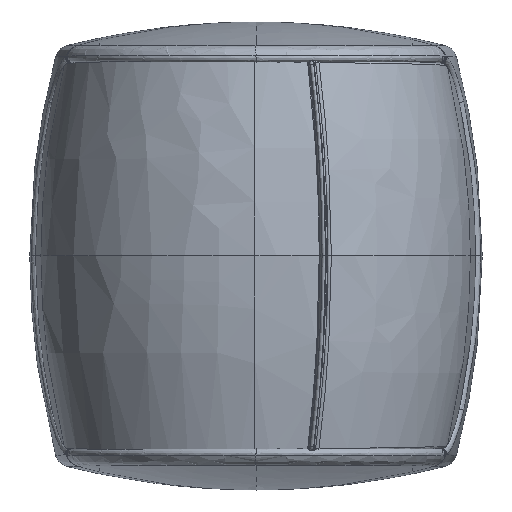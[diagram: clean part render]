
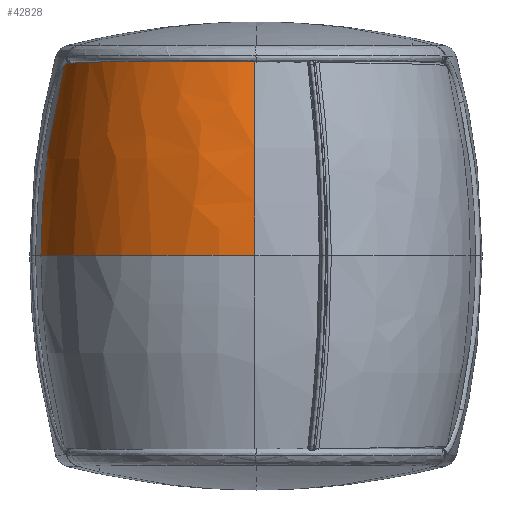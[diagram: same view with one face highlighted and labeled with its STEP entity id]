
A CAD part, top view. The second image highlights one B-rep face of the part: STEP entity #42828.
In plain terms, the highlighted free-form (B-spline) face has degree [2, 3] with [3, 16] control points.
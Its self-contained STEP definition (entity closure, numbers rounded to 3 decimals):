
#40558=CARTESIAN_POINT('Vertex',(-36.289,37.,21.634)) ;
#40562=CARTESIAN_POINT('Control Point',(-36.289,37.,21.634)) ;
#40563=CARTESIAN_POINT('Control Point',(-35.408,37.071,25.72)) ;
#40564=CARTESIAN_POINT('Control Point',(-32.244,37.208,33.572)) ;
#40565=CARTESIAN_POINT('Control Point',(-23.848,37.375,43.116)) ;
#40566=CARTESIAN_POINT('Control Point',(-12.746,37.483,49.307)) ;
#40567=CARTESIAN_POINT('Control Point',(-4.401,37.508,50.746)) ;
#40568=CARTESIAN_POINT('Control Point',(-0.222,37.508,50.741)) ;
#40569=CARTESIAN_POINT('Vertex',(-0.222,37.508,50.741)) ;
#40734=CARTESIAN_POINT('Vertex',(-36.857,36.62,18.903)) ;
#40738=CARTESIAN_POINT('Control Point',(-36.857,36.62,18.904)) ;
#40739=CARTESIAN_POINT('Control Point',(-36.689,36.851,19.717)) ;
#40740=CARTESIAN_POINT('Control Point',(-36.5,37.,20.636)) ;
#40741=CARTESIAN_POINT('Control Point',(-36.289,37.,21.634)) ;
#42741=CARTESIAN_POINT('Control Point',(-41.354,0.,19.515)) ;
#42742=CARTESIAN_POINT('Control Point',(-41.3,0.,19.921)) ;
#42743=CARTESIAN_POINT('Control Point',(-41.179,0.,20.732)) ;
#42744=CARTESIAN_POINT('Control Point',(-40.962,0.,21.942)) ;
#42745=CARTESIAN_POINT('Control Point',(-40.709,0.,23.145)) ;
#42746=CARTESIAN_POINT('Control Point',(-40.324,0.,24.738)) ;
#42747=CARTESIAN_POINT('Control Point',(-39.756,0.,26.706)) ;
#42748=CARTESIAN_POINT('Control Point',(-38.935,0.,29.023)) ;
#42749=CARTESIAN_POINT('Control Point',(-37.98,0.,31.285)) ;
#42750=CARTESIAN_POINT('Control Point',(-36.703,0.,33.871)) ;
#42751=CARTESIAN_POINT('Control Point',(-35.018,0.,36.723)) ;
#42752=CARTESIAN_POINT('Control Point',(-32.102,0.,40.782)) ;
#42753=CARTESIAN_POINT('Control Point',(-27.779,0.,45.336)) ;
#42754=CARTESIAN_POINT('Control Point',(-17.635,0.,52.757)) ;
#42755=CARTESIAN_POINT('Control Point',(-7.713,0.,55.516)) ;
#42756=CARTESIAN_POINT('Control Point',(-0.222,0.,55.506)) ;
#42757=CARTESIAN_POINT('Control Point',(-41.354,19.057,19.515)) ;
#42758=CARTESIAN_POINT('Control Point',(-41.3,19.057,19.921)) ;
#42759=CARTESIAN_POINT('Control Point',(-41.179,19.057,20.732)) ;
#42760=CARTESIAN_POINT('Control Point',(-40.962,19.057,21.942)) ;
#42761=CARTESIAN_POINT('Control Point',(-40.709,19.057,23.145)) ;
#42762=CARTESIAN_POINT('Control Point',(-40.324,19.057,24.738)) ;
#42763=CARTESIAN_POINT('Control Point',(-39.756,19.057,26.706)) ;
#42764=CARTESIAN_POINT('Control Point',(-38.935,19.057,29.023)) ;
#42765=CARTESIAN_POINT('Control Point',(-37.98,19.057,31.285)) ;
#42766=CARTESIAN_POINT('Control Point',(-36.703,19.057,33.871)) ;
#42767=CARTESIAN_POINT('Control Point',(-35.018,19.057,36.723)) ;
#42768=CARTESIAN_POINT('Control Point',(-32.102,19.057,40.782)) ;
#42769=CARTESIAN_POINT('Control Point',(-27.779,19.057,45.336)) ;
#42770=CARTESIAN_POINT('Control Point',(-17.635,19.057,52.757)) ;
#42771=CARTESIAN_POINT('Control Point',(-7.713,19.057,55.516)) ;
#42772=CARTESIAN_POINT('Control Point',(-0.222,19.057,55.506)) ;
#42773=CARTESIAN_POINT('Control Point',(-36.633,37.509,18.872)) ;
#42774=CARTESIAN_POINT('Control Point',(-36.582,37.509,19.249)) ;
#42775=CARTESIAN_POINT('Control Point',(-36.477,37.509,19.955)) ;
#42776=CARTESIAN_POINT('Control Point',(-36.283,37.509,21.033)) ;
#42777=CARTESIAN_POINT('Control Point',(-36.06,37.509,22.095)) ;
#42778=CARTESIAN_POINT('Control Point',(-35.719,37.509,23.507)) ;
#42779=CARTESIAN_POINT('Control Point',(-35.216,37.509,25.248)) ;
#42780=CARTESIAN_POINT('Control Point',(-34.49,37.509,27.298)) ;
#42781=CARTESIAN_POINT('Control Point',(-33.644,37.509,29.301)) ;
#42782=CARTESIAN_POINT('Control Point',(-32.514,37.509,31.59)) ;
#42783=CARTESIAN_POINT('Control Point',(-31.023,37.509,34.114)) ;
#42784=CARTESIAN_POINT('Control Point',(-28.441,37.509,37.708)) ;
#42785=CARTESIAN_POINT('Control Point',(-24.615,37.509,41.738)) ;
#42786=CARTESIAN_POINT('Control Point',(-15.635,37.508,48.307)) ;
#42787=CARTESIAN_POINT('Control Point',(-6.853,37.508,50.749)) ;
#42788=CARTESIAN_POINT('Control Point',(-0.222,37.508,50.741)) ;
#42790=CARTESIAN_POINT('Control Point',(-36.857,36.62,18.903)) ;
#42791=CARTESIAN_POINT('Control Point',(-41.354,18.591,19.515)) ;
#42792=CARTESIAN_POINT('Control Point',(-41.354,0.,19.515)) ;
#42793=CARTESIAN_POINT('Vertex',(-41.354,0.,19.515)) ;
#42797=CARTESIAN_POINT('Control Point',(-0.222,0.,55.506)) ;
#42798=CARTESIAN_POINT('Control Point',(-7.713,0.,55.516)) ;
#42799=CARTESIAN_POINT('Control Point',(-17.635,0.,52.757)) ;
#42800=CARTESIAN_POINT('Control Point',(-27.779,0.,45.336)) ;
#42801=CARTESIAN_POINT('Control Point',(-32.102,0.,40.782)) ;
#42802=CARTESIAN_POINT('Control Point',(-35.018,0.,36.723)) ;
#42803=CARTESIAN_POINT('Control Point',(-36.703,0.,33.871)) ;
#42804=CARTESIAN_POINT('Control Point',(-37.98,0.,31.285)) ;
#42805=CARTESIAN_POINT('Control Point',(-38.935,0.,29.023)) ;
#42806=CARTESIAN_POINT('Control Point',(-39.756,0.,26.706)) ;
#42807=CARTESIAN_POINT('Control Point',(-40.324,0.,24.738)) ;
#42808=CARTESIAN_POINT('Control Point',(-40.709,0.,23.145)) ;
#42809=CARTESIAN_POINT('Control Point',(-40.962,0.,21.942)) ;
#42810=CARTESIAN_POINT('Control Point',(-41.179,0.,20.732)) ;
#42811=CARTESIAN_POINT('Control Point',(-41.3,0.,19.921)) ;
#42812=CARTESIAN_POINT('Control Point',(-41.354,0.,19.515)) ;
#42813=CARTESIAN_POINT('Vertex',(-0.222,0.,55.506)) ;
#42817=CARTESIAN_POINT('Control Point',(-0.222,37.508,50.741)) ;
#42818=CARTESIAN_POINT('Control Point',(-0.222,19.057,55.506)) ;
#42819=CARTESIAN_POINT('Control Point',(-0.222,0.,55.506)) ;
#42822=ORIENTED_EDGE('',*,*,#40742,.F.) ;
#42823=ORIENTED_EDGE('',*,*,#42795,.T.) ;
#42824=ORIENTED_EDGE('',*,*,#42815,.F.) ;
#42825=ORIENTED_EDGE('',*,*,#42820,.F.) ;
#42826=ORIENTED_EDGE('',*,*,#40571,.F.) ;
#42828=ADVANCED_FACE('body.light module',(#42827),#42740,.F.) ;
#40737=B_SPLINE_CURVE_WITH_KNOTS('',3,(#40738,#40739,#40740,#40741),.UNSPECIFIED.,.F.,.U.,(4,4),(0.,1.),.UNSPECIFIED.) ;
#42796=B_SPLINE_CURVE_WITH_KNOTS('',3,(#42797,#42798,#42799,#42800,#42801,#42802,#42803,#42804,#42805,#42806,#42807,#42808,#42809,#42810,#42811,#42812),.UNSPECIFIED.,.F.,.U.,(4,1,1,1,1,1,1,1,1,1,1,1,1,4),(0.,0.376,0.502,0.627,0.69,0.753,0.794,0.835,0.876,0.918,0.938,0.959,0.979,1.),.UNSPECIFIED.) ;
#40571=EDGE_CURVE('',#40559,#40570,#40561,.T.) ;
#40742=EDGE_CURVE('',#40735,#40559,#40737,.T.) ;
#42795=EDGE_CURVE('',#40735,#42794,#42789,.T.) ;
#42815=EDGE_CURVE('',#42814,#42794,#42796,.T.) ;
#42820=EDGE_CURVE('',#40570,#42814,#42816,.T.) ;
#42821=EDGE_LOOP('',(#42822,#42823,#42824,#42825,#42826)) ;
#42827=FACE_OUTER_BOUND('',#42821,.T.) ;
#40559=VERTEX_POINT('',#40558) ;
#40570=VERTEX_POINT('',#40569) ;
#40735=VERTEX_POINT('',#40734) ;
#42794=VERTEX_POINT('',#42793) ;
#42814=VERTEX_POINT('',#42813) ;
#40561=(BOUNDED_CURVE()B_SPLINE_CURVE(3,(#40562,#40563,#40564,#40565,#40566,#40567,#40568),.UNSPECIFIED.,.F.,.U.)B_SPLINE_CURVE_WITH_KNOTS((4,1,1,1,4),(0.,12.68,25.36,38.039,50.719),.UNSPECIFIED.)CURVE()GEOMETRIC_REPRESENTATION_ITEM()RATIONAL_B_SPLINE_CURVE((1.,1.,1.,1.,1.,1.,1.))REPRESENTATION_ITEM('')) ;
#42789=(BOUNDED_CURVE()B_SPLINE_CURVE(2,(#42790,#42791,#42792),.UNSPECIFIED.,.F.,.U.)B_SPLINE_CURVE_WITH_KNOTS((3,3),(0.,1.),.UNSPECIFIED.)CURVE()GEOMETRIC_REPRESENTATION_ITEM()RATIONAL_B_SPLINE_CURVE((0.765,0.778,0.804))REPRESENTATION_ITEM('')) ;
#42816=(BOUNDED_CURVE()B_SPLINE_CURVE(2,(#42817,#42818,#42819),.UNSPECIFIED.,.F.,.U.)B_SPLINE_CURVE_WITH_KNOTS((3,3),(0.,1.),.UNSPECIFIED.)CURVE()GEOMETRIC_REPRESENTATION_ITEM()RATIONAL_B_SPLINE_CURVE((0.764,0.777,0.804))REPRESENTATION_ITEM('')) ;
#42740=(BOUNDED_SURFACE()B_SPLINE_SURFACE(2,3,((#42741,#42742,#42743,#42744,#42745,#42746,#42747,#42748,#42749,#42750,#42751,#42752,#42753,#42754,#42755,#42756),(#42757,#42758,#42759,#42760,#42761,#42762,#42763,#42764,#42765,#42766,#42767,#42768,#42769,#42770,#42771,#42772),(#42773,#42774,#42775,#42776,#42777,#42778,#42779,#42780,#42781,#42782,#42783,#42784,#42785,#42786,#42787,#42788)),.UNSPECIFIED.,.F.,.F.,.U.)B_SPLINE_SURFACE_WITH_KNOTS((3,3),(4,1,1,1,1,1,1,1,1,1,1,1,1,4),(7.513,7.891),(0.,0.021,0.041,0.062,0.082,0.124,0.165,0.206,0.247,0.31,0.373,0.498,0.624,1.),.UNSPECIFIED.)GEOMETRIC_REPRESENTATION_ITEM()RATIONAL_B_SPLINE_SURFACE(((0.804,0.804,0.804,0.804,0.804,0.804,0.804,0.804,0.804,0.804,0.804,0.804,0.804,0.804,0.804,0.804),(0.777,0.777,0.777,0.777,0.777,0.777,0.777,0.777,0.777,0.777,0.777,0.777,0.777,0.777,0.777,0.777),(0.764,0.764,0.764,0.764,0.764,0.764,0.764,0.764,0.764,0.764,0.764,0.764,0.764,0.764,0.764,0.764)))REPRESENTATION_ITEM('Rational BSpline Surface')SURFACE()) ;
